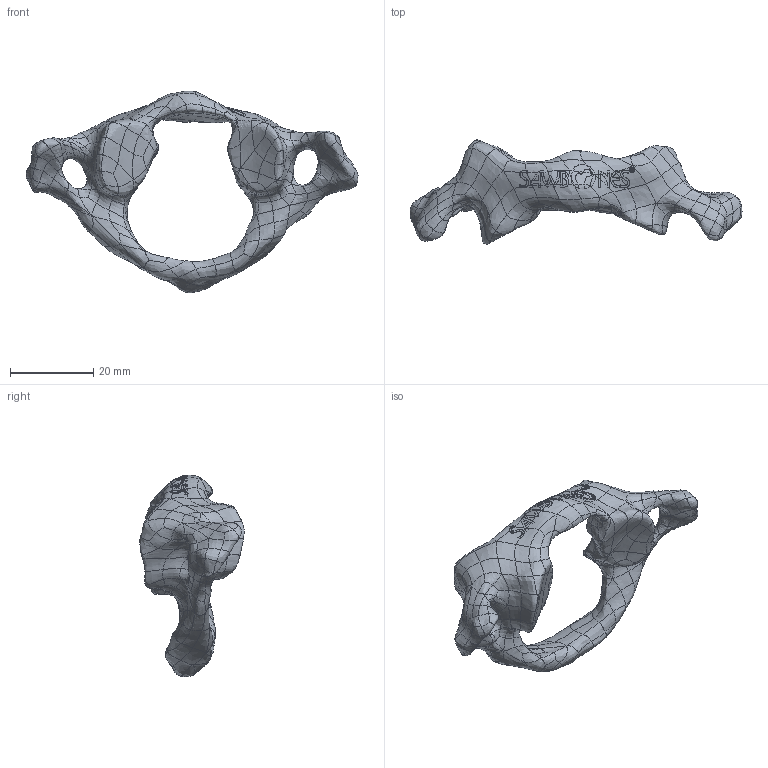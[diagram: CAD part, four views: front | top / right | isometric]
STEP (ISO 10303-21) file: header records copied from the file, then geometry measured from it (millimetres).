
FILE_DESCRIPTION (( 'STEP AP203' ), '1' );
FILE_NAME ('1377-40-1.STEP', '2025-06-17T19:47:02', ( '' ), ( '' ), 'SwSTEP 2.0', 'SolidWorks 2024', '' );
FILE_SCHEMA (( 'CONFIG_CONTROL_DESIGN' ));
Products named in the file (1): 1377-40-1
Bounding box: 79.82 x 25.05 x 48.49 mm (x, y, z)
Volume: 13358.4 mm3; surface area: 6167.2 mm2
Topology: 1 solids, 1 shells, 866 faces, 1915 edges, 1050 vertices
Faces by surface type: bspline 865, plane 1
Entity records: 96905 total; most frequent: CARTESIAN_POINT 84634, ORIENTED_EDGE 3830, B_SPLINE_CURVE_WITH_KNOTS 1915, EDGE_CURVE 1915, VERTEX_POINT 1050, EDGE_LOOP 871, FACE_OUTER_BOUND 866, ADVANCED_FACE 866
